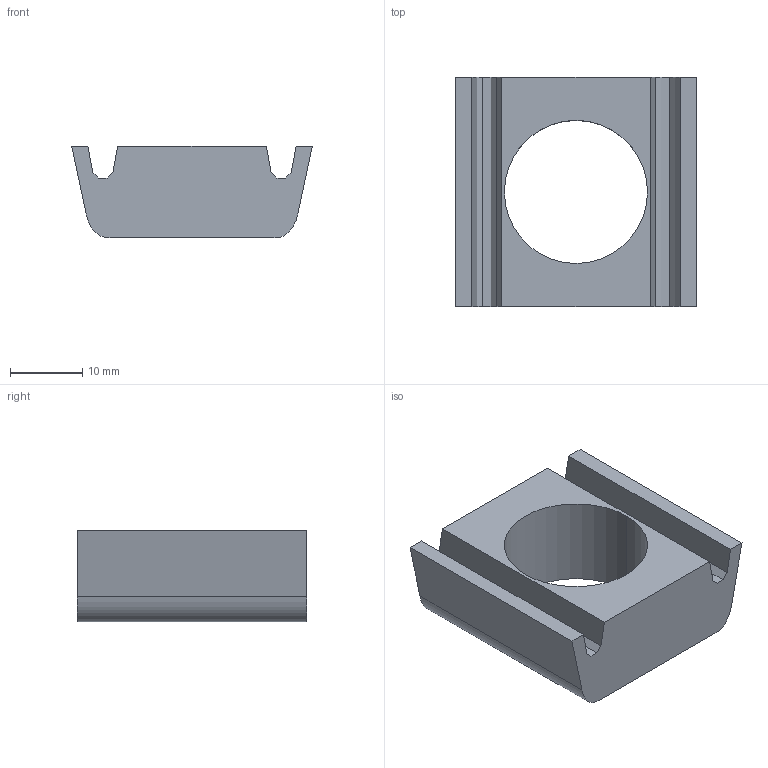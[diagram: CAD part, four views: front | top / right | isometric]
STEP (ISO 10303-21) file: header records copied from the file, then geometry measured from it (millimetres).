
FILE_DESCRIPTION(('TurboCAD Mac Pro'),'Build 980');
FILE_NAME('P1024.stp',' ',(''),(''),'ACIS Interop','IMSI','TurboCAD Mac Pro BY IMSI, INCORPORATED');
FILE_SCHEMA(('automotive_design'));
Length unit declared in the file: inch
Products named in the file (1): 1
Bounding box: 33.34 x 31.75 x 12.7 mm (x, y, z)
Volume: 7442.4 mm3; surface area: 4028.7 mm2
Topology: 1 solids, 1 shells, 22 faces, 60 edges, 40 vertices
Faces by surface type: plane 18, cylinder 2, bspline 2
Entity records: 896 total; most frequent: CARTESIAN_POINT 141, ORIENTED_EDGE 120, DIRECTION 102, EDGE_CURVE 60, LINE 52, VECTOR 52, VERTEX_POINT 40, AXIS2_PLACEMENT_3D 25
